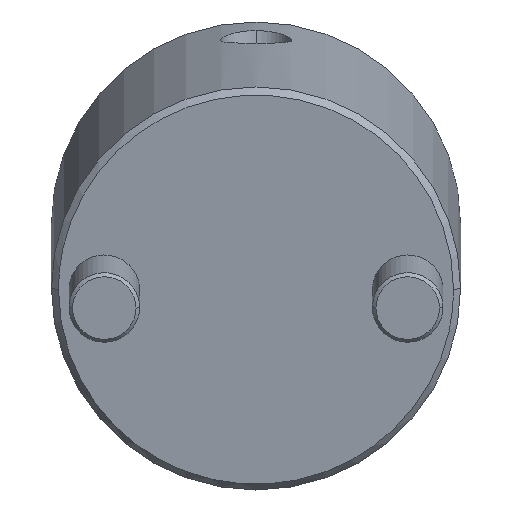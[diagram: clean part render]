
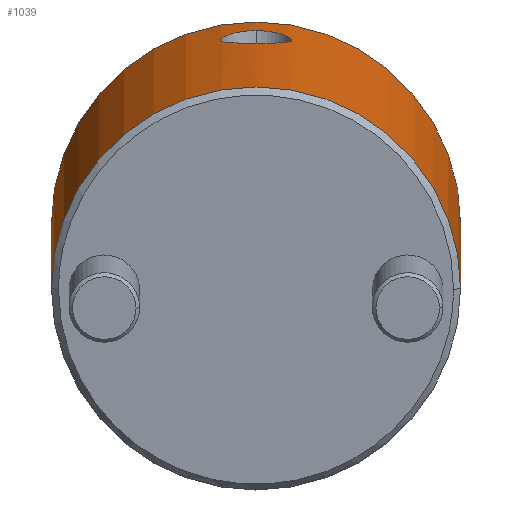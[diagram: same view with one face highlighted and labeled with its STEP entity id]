
A CAD part, front view. The second image highlights one B-rep face of the part: STEP entity #1039.
In plain terms, the highlighted cylindrical face has radius 29 mm (diameter 58 mm), a partial arc.
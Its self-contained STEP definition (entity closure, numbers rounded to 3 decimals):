
#772=CARTESIAN_POINT('Vertex',(0.,29.,1.)) ;
#775=CARTESIAN_POINT('Axis2P3D Location',(0.,0.,1.)) ;
#779=CARTESIAN_POINT('Vertex',(0.,-29.,1.)) ;
#931=CARTESIAN_POINT('Axis2P3D Location',(0.,0.,-2.75)) ;
#936=CARTESIAN_POINT('Line Origine',(0.,29.,-2.75)) ;
#940=CARTESIAN_POINT('Vertex',(0.,29.,54.)) ;
#943=CARTESIAN_POINT('Axis2P3D Location',(0.,0.,54.)) ;
#947=CARTESIAN_POINT('Vertex',(0.,-29.,54.)) ;
#950=CARTESIAN_POINT('Line Origine',(0.,-29.,-2.75)) ;
#962=CARTESIAN_POINT('Control Point',(29.,0.,46.955)) ;
#963=CARTESIAN_POINT('Control Point',(29.,0.427,46.955)) ;
#964=CARTESIAN_POINT('Control Point',(28.992,0.85,46.909)) ;
#965=CARTESIAN_POINT('Control Point',(28.977,1.272,46.813)) ;
#966=CARTESIAN_POINT('Control Point',(28.943,1.883,46.602)) ;
#967=CARTESIAN_POINT('Control Point',(28.897,2.455,46.291)) ;
#968=CARTESIAN_POINT('Control Point',(28.88,2.642,46.176)) ;
#969=CARTESIAN_POINT('Control Point',(28.845,3.003,45.926)) ;
#970=CARTESIAN_POINT('Control Point',(28.808,3.336,45.636)) ;
#971=CARTESIAN_POINT('Control Point',(28.789,3.495,45.482)) ;
#972=CARTESIAN_POINT('Control Point',(28.732,3.952,44.989)) ;
#973=CARTESIAN_POINT('Control Point',(28.677,4.325,44.429)) ;
#974=CARTESIAN_POINT('Control Point',(28.645,4.532,44.028)) ;
#975=CARTESIAN_POINT('Control Point',(28.604,4.777,43.404)) ;
#976=CARTESIAN_POINT('Control Point',(28.58,4.919,42.751)) ;
#977=CARTESIAN_POINT('Control Point',(28.573,4.955,42.53)) ;
#978=CARTESIAN_POINT('Control Point',(28.563,5.016,41.981)) ;
#979=CARTESIAN_POINT('Control Point',(28.565,5.003,41.43)) ;
#980=CARTESIAN_POINT('Control Point',(28.571,4.968,41.099)) ;
#981=CARTESIAN_POINT('Control Point',(28.596,4.826,40.344)) ;
#982=CARTESIAN_POINT('Control Point',(28.642,4.545,39.632)) ;
#983=CARTESIAN_POINT('Control Point',(28.675,4.341,39.243)) ;
#984=CARTESIAN_POINT('Control Point',(28.729,3.974,38.702)) ;
#985=CARTESIAN_POINT('Control Point',(28.786,3.524,38.229)) ;
#986=CARTESIAN_POINT('Control Point',(28.805,3.366,38.08)) ;
#987=CARTESIAN_POINT('Control Point',(28.842,3.033,37.799)) ;
#988=CARTESIAN_POINT('Control Point',(28.878,2.671,37.556)) ;
#989=CARTESIAN_POINT('Control Point',(28.895,2.482,37.444)) ;
#990=CARTESIAN_POINT('Control Point',(28.941,1.907,37.143)) ;
#991=CARTESIAN_POINT('Control Point',(28.976,1.287,36.939)) ;
#992=CARTESIAN_POINT('Control Point',(28.992,0.861,36.847)) ;
#993=CARTESIAN_POINT('Control Point',(29.,0.432,36.801)) ;
#994=CARTESIAN_POINT('Control Point',(29.,0.,36.801)) ;
#995=CARTESIAN_POINT('Vertex',(29.,0.,46.955)) ;
#997=CARTESIAN_POINT('Vertex',(29.,0.,36.801)) ;
#1001=CARTESIAN_POINT('Control Point',(29.,0.,36.801)) ;
#1002=CARTESIAN_POINT('Control Point',(29.,-0.219,36.801)) ;
#1003=CARTESIAN_POINT('Control Point',(28.998,-0.438,36.813)) ;
#1004=CARTESIAN_POINT('Control Point',(28.994,-0.655,36.836)) ;
#1005=CARTESIAN_POINT('Control Point',(28.982,-1.087,36.907)) ;
#1006=CARTESIAN_POINT('Control Point',(28.962,-1.51,37.024)) ;
#1007=CARTESIAN_POINT('Control Point',(28.95,-1.717,37.093)) ;
#1008=CARTESIAN_POINT('Control Point',(28.924,-2.123,37.255)) ;
#1009=CARTESIAN_POINT('Control Point',(28.892,-2.509,37.459)) ;
#1010=CARTESIAN_POINT('Control Point',(28.875,-2.697,37.573)) ;
#1011=CARTESIAN_POINT('Control Point',(28.822,-3.237,37.94)) ;
#1012=CARTESIAN_POINT('Control Point',(28.764,-3.711,38.391)) ;
#1013=CARTESIAN_POINT('Control Point',(28.725,-3.994,38.727)) ;
#1014=CARTESIAN_POINT('Control Point',(28.672,-4.357,39.271)) ;
#1015=CARTESIAN_POINT('Control Point',(28.629,-4.626,39.868)) ;
#1016=CARTESIAN_POINT('Control Point',(28.616,-4.705,40.071)) ;
#1017=CARTESIAN_POINT('Control Point',(28.593,-4.84,40.485)) ;
#1018=CARTESIAN_POINT('Control Point',(28.578,-4.93,40.914)) ;
#1019=CARTESIAN_POINT('Control Point',(28.572,-4.963,41.133)) ;
#1020=CARTESIAN_POINT('Control Point',(28.561,-5.029,41.793)) ;
#1021=CARTESIAN_POINT('Control Point',(28.568,-4.987,42.456)) ;
#1022=CARTESIAN_POINT('Control Point',(28.581,-4.912,42.898)) ;
#1023=CARTESIAN_POINT('Control Point',(28.623,-4.67,43.756)) ;
#1024=CARTESIAN_POINT('Control Point',(28.688,-4.251,44.551)) ;
#1025=CARTESIAN_POINT('Control Point',(28.725,-4.001,44.922)) ;
#1026=CARTESIAN_POINT('Control Point',(28.802,-3.424,45.61)) ;
#1027=CARTESIAN_POINT('Control Point',(28.875,-2.721,46.15)) ;
#1028=CARTESIAN_POINT('Control Point',(28.909,-2.344,46.379)) ;
#1029=CARTESIAN_POINT('Control Point',(28.958,-1.663,46.697)) ;
#1030=CARTESIAN_POINT('Control Point',(28.987,-0.938,46.878)) ;
#1031=CARTESIAN_POINT('Control Point',(28.996,-0.626,46.93)) ;
#1032=CARTESIAN_POINT('Control Point',(29.,-0.314,46.955)) ;
#1033=CARTESIAN_POINT('Control Point',(29.,0.,46.955)) ;
#776=DIRECTION('Axis2P3D Direction',(0.,0.,1.)) ;
#932=DIRECTION('Axis2P3D Direction',(0.,-0.,1.)) ;
#933=DIRECTION('Axis2P3D XDirection',(0.,-1.,0.)) ;
#937=DIRECTION('Vector Direction',(0.,0.,1.)) ;
#944=DIRECTION('Axis2P3D Direction',(0.,-0.,1.)) ;
#951=DIRECTION('Vector Direction',(0.,0.,1.)) ;
#777=AXIS2_PLACEMENT_3D('Circle Axis2P3D',#775,#776,$) ;
#934=AXIS2_PLACEMENT_3D('Cylinder Axis2P3D',#931,#932,#933) ;
#945=AXIS2_PLACEMENT_3D('Circle Axis2P3D',#943,#944,$) ;
#956=ORIENTED_EDGE('',*,*,#942,.F.) ;
#957=ORIENTED_EDGE('',*,*,#949,.T.) ;
#958=ORIENTED_EDGE('',*,*,#954,.T.) ;
#959=ORIENTED_EDGE('',*,*,#781,.F.) ;
#1036=ORIENTED_EDGE('',*,*,#999,.T.) ;
#1037=ORIENTED_EDGE('',*,*,#1034,.T.) ;
#1038=FACE_BOUND('',#1035,.T.) ;
#938=VECTOR('Line Direction',#937,1.) ;
#952=VECTOR('Line Direction',#951,1.) ;
#1039=ADVANCED_FACE('MANIFOLD_SOLID_BREP #1144',(#960,#1038),#935,.T.) ;
#961=B_SPLINE_CURVE_WITH_KNOTS('',5,(#962,#963,#964,#965,#966,#967,#968,#969,#970,#971,#972,#973,#974,#975,#976,#977,#978,#979,#980,#981,#982,#983,#984,#985,#986,#987,#988,#989,#990,#991,#992,#993,#994),.UNSPECIFIED.,.F.,.U.,(6,3,3,3,3,3,3,3,3,3,6),(0.,3.07,4.614,6.168,9.302,10.865,13.188,16.279,17.83,19.379,22.437),.UNSPECIFIED.) ;
#1000=B_SPLINE_CURVE_WITH_KNOTS('',5,(#1001,#1002,#1003,#1004,#1005,#1006,#1007,#1008,#1009,#1010,#1011,#1012,#1013,#1014,#1015,#1016,#1017,#1018,#1019,#1020,#1021,#1022,#1023,#1024,#1025,#1026,#1027,#1028,#1029,#1030,#1031,#1032,#1033),.UNSPECIFIED.,.F.,.U.,(6,3,3,3,3,3,3,3,3,3,6),(0.,1.553,3.104,4.653,7.749,9.295,10.843,13.969,17.094,20.18,22.436),.UNSPECIFIED.) ;
#778=CIRCLE('generated circle',#777,29.) ;
#946=CIRCLE('generated circle',#945,29.) ;
#935=CYLINDRICAL_SURFACE('generated cylinder',#934,29.) ;
#781=EDGE_CURVE('',#773,#780,#778,.F.) ;
#942=EDGE_CURVE('',#941,#773,#939,.F.) ;
#949=EDGE_CURVE('',#941,#948,#946,.F.) ;
#954=EDGE_CURVE('',#948,#780,#953,.F.) ;
#999=EDGE_CURVE('',#996,#998,#961,.T.) ;
#1034=EDGE_CURVE('',#998,#996,#1000,.T.) ;
#955=EDGE_LOOP('',(#956,#957,#958,#959)) ;
#1035=EDGE_LOOP('',(#1036,#1037)) ;
#960=FACE_OUTER_BOUND('',#955,.T.) ;
#939=LINE('Line',#936,#938) ;
#953=LINE('Line',#950,#952) ;
#773=VERTEX_POINT('',#772) ;
#780=VERTEX_POINT('',#779) ;
#941=VERTEX_POINT('',#940) ;
#948=VERTEX_POINT('',#947) ;
#996=VERTEX_POINT('',#995) ;
#998=VERTEX_POINT('',#997) ;
